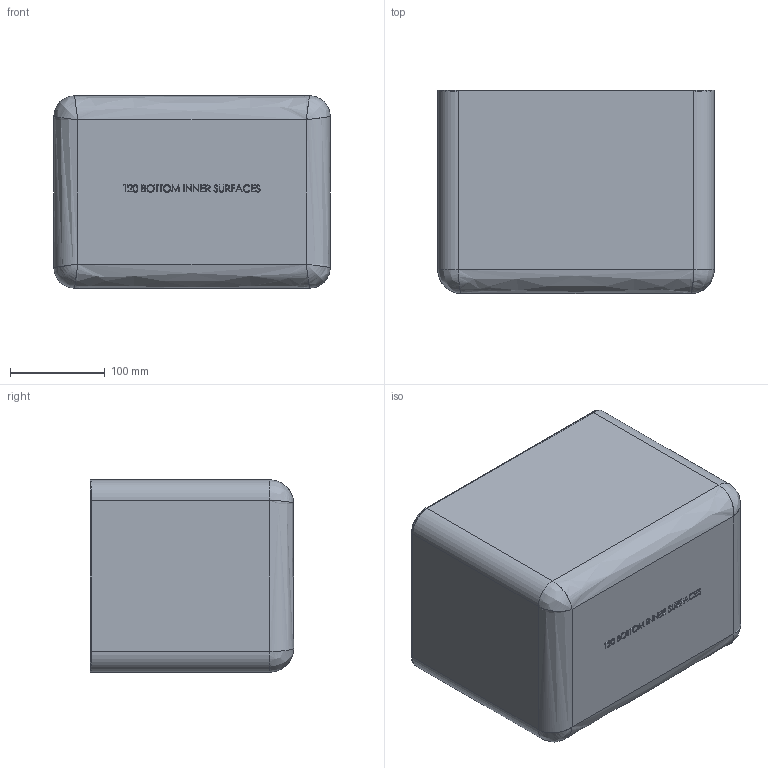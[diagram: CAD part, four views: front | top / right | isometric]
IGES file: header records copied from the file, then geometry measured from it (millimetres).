
Start section: SolidWorks IGES file using analytic representation for surfaces
Global section: file name: M:\NANUK\Solidworks\3D\Top Loader\TL1\4 - 3D FILES\5 - INNER SURFACES\T20_BOTTOM_INNER SURFACES.IGS; native system: SolidWorks 2022; preprocessor: SolidWorks 2022; author: dbrousseau; date: 230703.103929; units: inch
Bounding box: 291.98 x 214.73 x 203.08 mm (x, y, z)
Surface area: 494503.2 mm2 (no closed solid volume)
Topology: 0 solids, 0 shells, 1223 faces, 11441 edges, 11409 vertices
Faces by surface type: bspline 925, revolution 298
